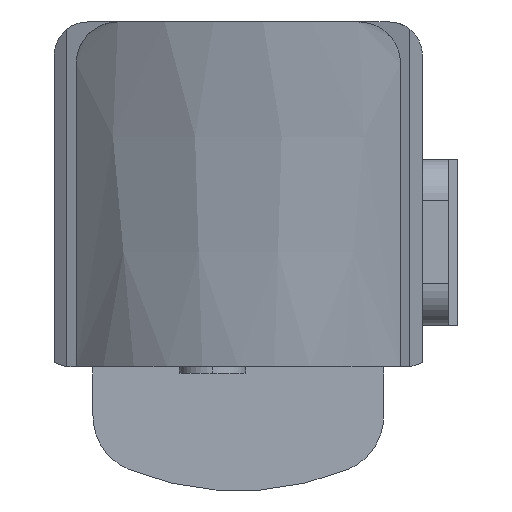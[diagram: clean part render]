
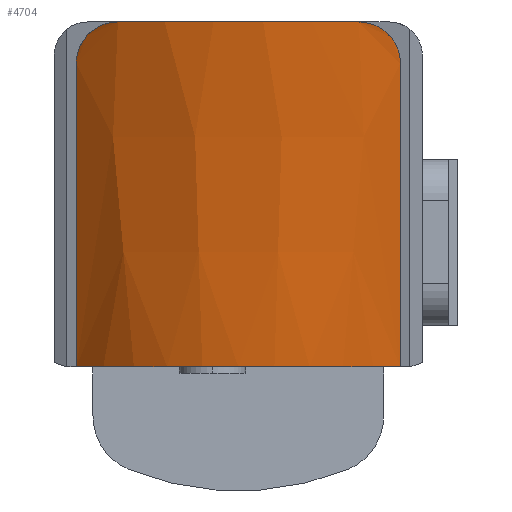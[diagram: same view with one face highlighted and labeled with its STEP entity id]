
A CAD part, left-side view. The second image highlights one B-rep face of the part: STEP entity #4704.
In plain terms, the highlighted conical face has half-angle 11 degrees and reference radius 35 mm.
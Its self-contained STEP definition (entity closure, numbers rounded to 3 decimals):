
#25 = DIRECTION ( 'NONE',  ( 1., 0., 0. ) ) ;
#28 = DIRECTION ( 'NONE',  ( 1., 0., 0. ) ) ;
#54 = CARTESIAN_POINT ( 'NONE',  ( -120.16, -18.946, -2.688 ) ) ;
#79 = CARTESIAN_POINT ( 'NONE',  ( -123.055, -14.838, 0. ) ) ;
#80 = CARTESIAN_POINT ( 'NONE',  ( -109.932, 19.5, -41.5 ) ) ;
#184 = AXIS2_PLACEMENT_3D ( 'NONE', #364, #4778, #25 ) ;
#202 = VERTEX_POINT ( 'NONE', #1390 ) ;
#215 = CARTESIAN_POINT ( 'NONE',  ( -119.24, 19.5, -5. ) ) ;
#253 = ORIENTED_EDGE ( 'NONE', *, *, #4310, .F. ) ;
#254 = ORIENTED_EDGE ( 'NONE', *, *, #1519, .T. ) ;
#290 = CARTESIAN_POINT ( 'NONE',  ( -123.209, 14.5, 0. ) ) ;
#293 = CARTESIAN_POINT ( 'NONE',  ( -120.084, 19.009, -2.833 ) ) ;
#313 = CARTESIAN_POINT ( 'NONE',  ( -117.791, 19.5, -11.109 ) ) ;
#315 = CARTESIAN_POINT ( 'NONE',  ( -119.843, 19.21, -3.29 ) ) ;
#341 = CARTESIAN_POINT ( 'NONE',  ( -123.055, 14.838, 0. ) ) ;
#364 = CARTESIAN_POINT ( 'NONE',  ( -91.354, 0., 0. ) ) ;
#417 = CARTESIAN_POINT ( 'NONE',  ( -122.368, -16.116, -0.258 ) ) ;
#447 = CARTESIAN_POINT ( 'NONE',  ( -119.692, -19.318, -3.62 ) ) ;
#533 = B_SPLINE_CURVE_WITH_KNOTS ( 'NONE', 3,
 ( #1947, #341, #3113, #4296, #3527, #2643, #3834, #5102, #1511, #2256, #3083, #4684, #2670, #1129, #293, #315, #4657, #3474, #1462, #712 ),
 .UNSPECIFIED., .F., .F.,
 ( 4, 2, 2, 2, 2, 2, 2, 2, 2, 4 ),
 ( 0., 0.001, 0.002, 0.003, 0.004, 0.005, 0.006, 0.007, 0.008, 0.009 ),
 .UNSPECIFIED. ) ;
#609 = AXIS2_PLACEMENT_3D ( 'NONE', #4708, #4321, #28 ) ;
#712 = CARTESIAN_POINT ( 'NONE',  ( -119.24, 19.5, -5. ) ) ;
#788 = AXIS2_PLACEMENT_3D ( 'NONE', #1954, #2676, #1596 ) ;
#913 = EDGE_LOOP ( 'NONE', ( #3251, #2086, #253, #254, #2867, #4460 ) ) ;
#1018 = CONICAL_SURFACE ( 'NONE', #184, 35., 0.192 ) ;
#1116 = EDGE_CURVE ( 'Edge2', #4303, #2547, #3175, .T. ) ;
#1129 = CARTESIAN_POINT ( 'NONE',  ( -120.168, 18.934, -2.684 ) ) ;
#1390 = CARTESIAN_POINT ( 'NONE',  ( -123.209, -14.5, 0. ) ) ;
#1462 = CARTESIAN_POINT ( 'NONE',  ( -119.326, 19.5, -4.638 ) ) ;
#1511 = CARTESIAN_POINT ( 'NONE',  ( -121.249, 17.753, -1.19 ) ) ;
#1519 = EDGE_CURVE ( 'NONE', #1918, #4209, #533, .T. ) ;
#1584 = CARTESIAN_POINT ( 'NONE',  ( -119.24, -19.5, -5. ) ) ;
#1596 = DIRECTION ( 'NONE',  ( -1., 0., 0. ) ) ;
#1607 = CARTESIAN_POINT ( 'NONE',  ( -119.326, -19.5, -4.638 ) ) ;
#1661 = CARTESIAN_POINT ( 'NONE',  ( -121.438, -17.509, -0.994 ) ) ;
#1688 = CARTESIAN_POINT ( 'NONE',  ( -120.689, -18.416, -1.874 ) ) ;
#1848 = B_SPLINE_CURVE_WITH_KNOTS ( 'NONE', 3,
 ( #3106, #4998, #3805, #3859, #313, #1899 ),
 .UNSPECIFIED., .F., .F.,
 ( 4, 2, 4 ),
 ( 0., 0.019, 0.038 ),
 .UNSPECIFIED. ) ;
#1899 = CARTESIAN_POINT ( 'NONE',  ( -119.24, 19.5, -5. ) ) ;
#1918 = VERTEX_POINT ( 'NONE', #290 ) ;
#1947 = CARTESIAN_POINT ( 'NONE',  ( -123.209, 14.5, 0. ) ) ;
#1954 = CARTESIAN_POINT ( 'NONE',  ( -91.354, 0., -41.5 ) ) ;
#1963 = B_SPLINE_CURVE_WITH_KNOTS ( 'NONE', 3,
 ( #1584, #1607, #4756, #447, #1970, #54, #3958, #1688, #3650, #3187, #1661, #3934, #4447, #417, #1992, #4343, #79, #2401 ),
 .UNSPECIFIED., .F., .F.,
 ( 4, 2, 2, 2, 2, 2, 2, 2, 4 ),
 ( 0., 0.001, 0.002, 0.003, 0.004, 0.005, 0.007, 0.008, 0.009 ),
 .UNSPECIFIED. ) ;
#1970 = CARTESIAN_POINT ( 'NONE',  ( -119.841, -19.212, -3.294 ) ) ;
#1992 = CARTESIAN_POINT ( 'NONE',  ( -122.546, -15.809, -0.163 ) ) ;
#2086 = ORIENTED_EDGE ( 'NONE', *, *, #3226, .T. ) ;
#2104 = B_SPLINE_CURVE_WITH_KNOTS ( 'NONE', 3,
 ( #3524, #3189, #3211, #2819, #4394, #2431 ),
 .UNSPECIFIED., .F., .F.,
 ( 4, 2, 4 ),
 ( 0.333, 0.352, 0.371 ),
 .UNSPECIFIED. ) ;
#2256 = CARTESIAN_POINT ( 'NONE',  ( -120.874, 18.209, -1.631 ) ) ;
#2401 = CARTESIAN_POINT ( 'NONE',  ( -123.209, -14.5, 0. ) ) ;
#2431 = CARTESIAN_POINT ( 'NONE',  ( -119.24, -19.5, -5. ) ) ;
#2469 = CARTESIAN_POINT ( 'NONE',  ( -109.932, -19.5, -41.5 ) ) ;
#2547 = VERTEX_POINT ( 'NONE', #2469 ) ;
#2643 = CARTESIAN_POINT ( 'NONE',  ( -122.004, 16.7, -0.499 ) ) ;
#2670 = CARTESIAN_POINT ( 'NONE',  ( -120.338, 18.774, -2.401 ) ) ;
#2676 = DIRECTION ( 'NONE',  ( 0., 0., 1. ) ) ;
#2740 = VERTEX_POINT ( 'NONE', #5026 ) ;
#2814 = FACE_OUTER_BOUND ( 'NONE', #913, .T. ) ;
#2819 = CARTESIAN_POINT ( 'NONE',  ( -116.308, -19.5, -17.212 ) ) ;
#2867 = ORIENTED_EDGE ( 'NONE', *, *, #3177, .F. ) ;
#3083 = CARTESIAN_POINT ( 'NONE',  ( -120.69, 18.414, -1.872 ) ) ;
#3106 = CARTESIAN_POINT ( 'NONE',  ( -109.932, 19.5, -41.5 ) ) ;
#3113 = CARTESIAN_POINT ( 'NONE',  ( -122.892, 15.165, -0.034 ) ) ;
#3175 = CIRCLE ( 'NONE', #788, 26.933 ) ;
#3177 = EDGE_CURVE ( 'NONE', #4303, #4209, #1848, .T. ) ;
#3187 = CARTESIAN_POINT ( 'NONE',  ( -121.247, -17.756, -1.192 ) ) ;
#3189 = CARTESIAN_POINT ( 'NONE',  ( -111.635, -19.5, -35.457 ) ) ;
#3211 = CARTESIAN_POINT ( 'NONE',  ( -113.229, -19.5, -29.385 ) ) ;
#3226 = EDGE_CURVE ( 'NONE', #2740, #202, #1963, .T. ) ;
#3251 = ORIENTED_EDGE ( 'NONE', *, *, #4398, .T. ) ;
#3329 = CIRCLE ( 'NONE', #609, 35. ) ;
#3474 = CARTESIAN_POINT ( 'NONE',  ( -119.438, 19.46, -4.283 ) ) ;
#3524 = CARTESIAN_POINT ( 'NONE',  ( -109.932, -19.5, -41.5 ) ) ;
#3527 = CARTESIAN_POINT ( 'NONE',  ( -122.373, 16.108, -0.255 ) ) ;
#3650 = CARTESIAN_POINT ( 'NONE',  ( -120.874, -18.208, -1.632 ) ) ;
#3805 = CARTESIAN_POINT ( 'NONE',  ( -113.229, 19.5, -29.383 ) ) ;
#3834 = CARTESIAN_POINT ( 'NONE',  ( -121.817, 16.979, -0.647 ) ) ;
#3859 = CARTESIAN_POINT ( 'NONE',  ( -116.308, 19.5, -17.21 ) ) ;
#3934 = CARTESIAN_POINT ( 'NONE',  ( -121.817, -16.979, -0.647 ) ) ;
#3958 = CARTESIAN_POINT ( 'NONE',  ( -120.33, -18.786, -2.405 ) ) ;
#4209 = VERTEX_POINT ( 'NONE', #215 ) ;
#4296 = CARTESIAN_POINT ( 'NONE',  ( -122.552, 15.799, -0.161 ) ) ;
#4303 = VERTEX_POINT ( 'NONE', #80 ) ;
#4310 = EDGE_CURVE ( 'Edge16', #1918, #202, #3329, .T. ) ;
#4321 = DIRECTION ( 'NONE',  ( 0., 0., 1. ) ) ;
#4343 = CARTESIAN_POINT ( 'NONE',  ( -122.892, -15.167, -0.034 ) ) ;
#4394 = CARTESIAN_POINT ( 'NONE',  ( -117.791, -19.5, -11.111 ) ) ;
#4398 = EDGE_CURVE ( 'NONE', #2547, #2740, #2104, .T. ) ;
#4447 = CARTESIAN_POINT ( 'NONE',  ( -122.003, -16.701, -0.499 ) ) ;
#4460 = ORIENTED_EDGE ( 'NONE', *, *, #1116, .T. ) ;
#4657 = CARTESIAN_POINT ( 'NONE',  ( -119.697, 19.315, -3.61 ) ) ;
#4684 = CARTESIAN_POINT ( 'NONE',  ( -120.425, 18.688, -2.265 ) ) ;
#4704 = ADVANCED_FACE ( 'Face10', ( #2814 ), #1018, .T. ) ;
#4708 = CARTESIAN_POINT ( 'NONE',  ( -91.354, 0., 0. ) ) ;
#4756 = CARTESIAN_POINT ( 'NONE',  ( -119.435, -19.461, -4.291 ) ) ;
#4778 = DIRECTION ( 'NONE',  ( 0., 0., 1. ) ) ;
#4998 = CARTESIAN_POINT ( 'NONE',  ( -111.635, 19.5, -35.455 ) ) ;
#5026 = CARTESIAN_POINT ( 'NONE',  ( -119.24, -19.5, -5. ) ) ;
#5102 = CARTESIAN_POINT ( 'NONE',  ( -121.441, 17.505, -0.991 ) ) ;
